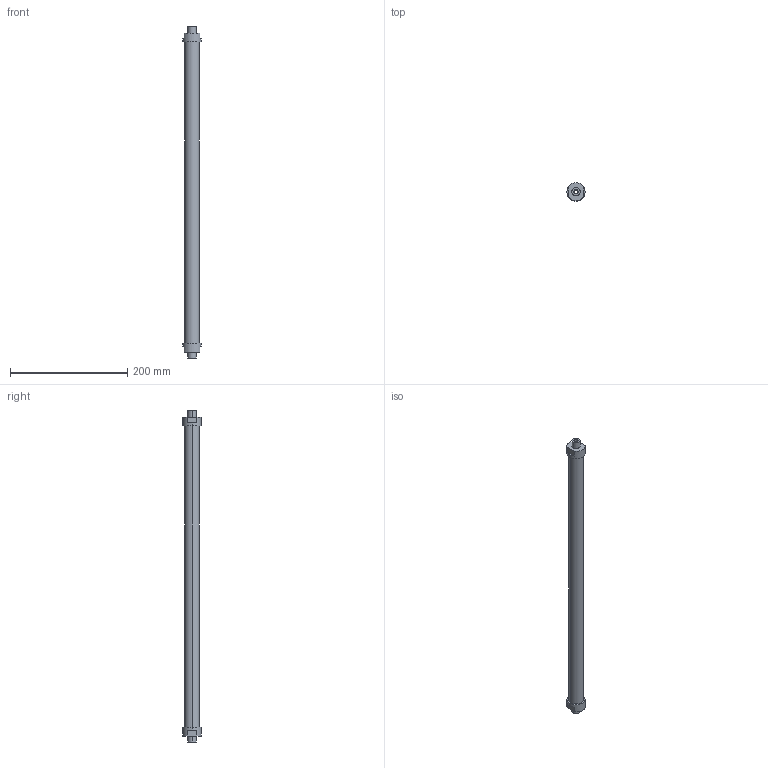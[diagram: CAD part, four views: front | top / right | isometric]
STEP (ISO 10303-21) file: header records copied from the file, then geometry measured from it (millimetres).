
FILE_DESCRIPTION(('STEP AP214'),'1');
FILE_NAME('ETT-R050G554.stp','2015-02-02T12:59:20',(' '),(' '),'Spatial InterOp 3D',' ',' ');
FILE_SCHEMA(('automotive_design'));
Length unit declared in the file: metre
Products named in the file (3): 1; 2; 3
Bounding box: 31 x 31 x 566 mm (x, y, z)
Volume: 261190.6 mm3; surface area: 57382.4 mm2
Topology: 1 solids, 7 shells, 32 faces, 86 edges, 66 vertices
Faces by surface type: cylinder 16, plane 16
Entity records: 1375 total; most frequent: DIRECTION 206, CARTESIAN_POINT 187, ORIENTED_EDGE 148, EDGE_CURVE 86, AXIS2_PLACEMENT_3D 85, VERTEX_POINT 66, CIRCLE 50, EDGE_LOOP 40
